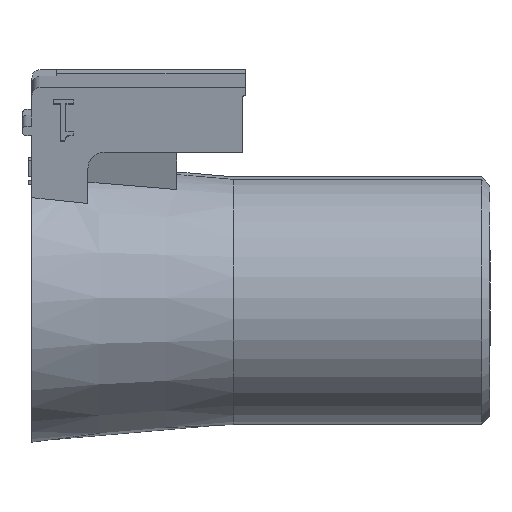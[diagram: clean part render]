
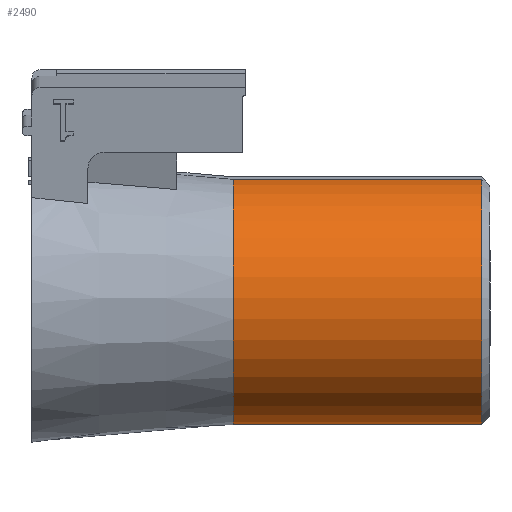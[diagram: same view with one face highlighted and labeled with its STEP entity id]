
A CAD part, front view. The second image highlights one B-rep face of the part: STEP entity #2490.
In plain terms, the highlighted cylindrical face has radius 7.5 mm (diameter 15 mm), a partial arc.
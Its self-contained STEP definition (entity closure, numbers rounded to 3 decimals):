
#66=CIRCLE('',#2626,7.5);
#74=CIRCLE('',#2645,7.5);
#101=CYLINDRICAL_SURFACE('',#2646,7.5);
#407=FACE_OUTER_BOUND('',#541,.T.);
#541=EDGE_LOOP('',(#2162,#2163,#2164,#2165));
#733=LINE('',#4103,#965);
#778=LINE('',#4235,#1010);
#965=VECTOR('',#3004,10.);
#1010=VECTOR('',#3121,10.);
#1205=VERTEX_POINT('',#4100);
#1206=VERTEX_POINT('',#4102);
#1232=VERTEX_POINT('',#4172);
#1247=VERTEX_POINT('',#4230);
#1512=EDGE_CURVE('',#1206,#1205,#733,.T.);
#1548=EDGE_CURVE('',#1232,#1205,#66,.T.);
#1575=EDGE_CURVE('',#1206,#1247,#74,.T.);
#1576=EDGE_CURVE('',#1247,#1232,#778,.T.);
#2162=ORIENTED_EDGE('',*,*,#1576,.F.);
#2163=ORIENTED_EDGE('',*,*,#1575,.F.);
#2164=ORIENTED_EDGE('',*,*,#1512,.T.);
#2165=ORIENTED_EDGE('',*,*,#1548,.F.);
#2490=ADVANCED_FACE('',(#407),#101,.T.);
#2626=AXIS2_PLACEMENT_3D('',#4177,#3063,#3064);
#2645=AXIS2_PLACEMENT_3D('',#4233,#3117,#3118);
#2646=AXIS2_PLACEMENT_3D('',#4234,#3119,#3120);
#3004=DIRECTION('',(-1.,0.,0.));
#3063=DIRECTION('center_axis',(-1.,0.,0.));
#3064=DIRECTION('ref_axis',(0.,-0.985,-0.174));
#3117=DIRECTION('center_axis',(1.,0.,0.));
#3118=DIRECTION('ref_axis',(0.,0.985,0.174));
#3119=DIRECTION('center_axis',(-1.,0.,0.));
#3120=DIRECTION('ref_axis',(0.,-0.985,-0.174));
#3121=DIRECTION('',(-1.,0.,0.));
#4100=CARTESIAN_POINT('',(11.43,-1.806,7.342));
#4102=CARTESIAN_POINT('',(26.5,-1.806,7.342));
#4103=CARTESIAN_POINT('',(19.215,-1.806,7.342));
#4172=CARTESIAN_POINT('',(11.43,0.402,-7.489));
#4177=CARTESIAN_POINT('Origin',(11.43,-0.504,-0.044));
#4230=CARTESIAN_POINT('',(26.5,0.402,-7.489));
#4233=CARTESIAN_POINT('Origin',(26.5,-0.504,-0.044));
#4234=CARTESIAN_POINT('Origin',(19.215,-0.504,-0.044));
#4235=CARTESIAN_POINT('',(19.215,0.402,-7.489));
